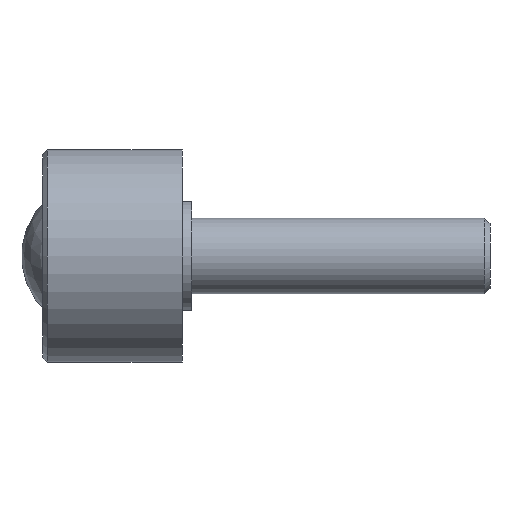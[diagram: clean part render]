
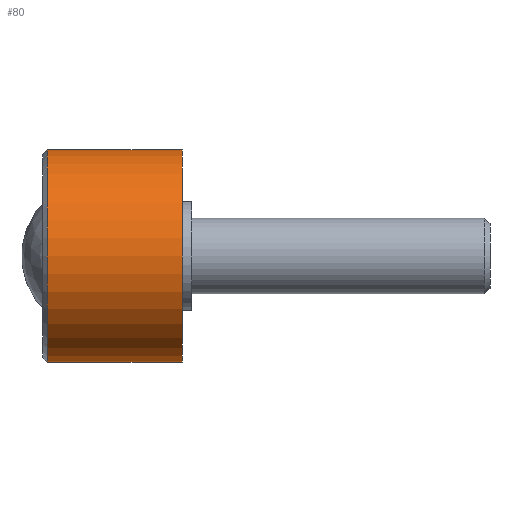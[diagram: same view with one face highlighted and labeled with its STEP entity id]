
A CAD part, left-side view. The second image highlights one B-rep face of the part: STEP entity #80.
In plain terms, the highlighted cylindrical face has radius 22.5 mm (diameter 45 mm), a full revolution.
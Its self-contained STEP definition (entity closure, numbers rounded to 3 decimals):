
#80 = ADVANCED_FACE( '', ( #105, #106, #107 ), #108, .T. );
#105 = FACE_OUTER_BOUND( '', #146, .T. );
#106 = FACE_BOUND( '', #147, .T. );
#107 = FACE_OUTER_BOUND( '', #148, .T. );
#108 = CYLINDRICAL_SURFACE( '', #149, 22.5 );
#146 = EDGE_LOOP( '', ( #197 ) );
#147 = EDGE_LOOP( '', ( #198 ) );
#148 = EDGE_LOOP( '', ( #199 ) );
#149 = AXIS2_PLACEMENT_3D( '', #200, #201, #202 );
#197 = ORIENTED_EDGE( '', *, *, #246, .F. );
#198 = ORIENTED_EDGE( '', *, *, #247, .F. );
#199 = ORIENTED_EDGE( '', *, *, #248, .T. );
#200 = CARTESIAN_POINT( '', ( 0., 0., 0. ) );
#201 = DIRECTION( '', ( 0., 1., 0. ) );
#202 = DIRECTION( '', ( 0., 0., -1. ) );
#246 = EDGE_CURVE( '', #265, #265, #266, .T. );
#247 = EDGE_CURVE( '', #267, #267, #268, .T. );
#248 = EDGE_CURVE( '', #269, #269, #270, .T. );
#265 = VERTEX_POINT( '', #291 );
#266 = CIRCLE( '', #292, 22.5 );
#267 = VERTEX_POINT( '', #293 );
#268 = B_SPLINE_CURVE_WITH_KNOTS( '', 3, ( #294, #295, #296, #297, #298, #299, #300, #301, #302, #303, #304, #305, #306, #307, #308, #309, #310, #311, #312, #313, #314, #315, #316, #317, #318, #319, #320, #321, #322, #323, #324, #325, #326, #327, #328, #329, #330, #331, #332, #333, #334, #335, #336, #337, #338, #339, #340, #341, #342, #343, #344, #345, #346, #347, #348, #349, #350, #351, #352, #353, #354, #355, #356, #357, #358, #359, #360, #361, #362, #363, #364, #365, #366, #367, #368, #369, #370, #371, #372, #373, #374, #375, #376, #377 ), .UNSPECIFIED., .T., .F., ( 2, 2, 2, 2, 2, 2, 2, 2, 2, 2, 2, 2, 2, 2, 2, 2, 2, 2, 2, 2, 2, 2, 2, 2, 2, 2, 2, 2, 2, 2, 2, 2, 2, 2, 2, 2, 2, 2, 2, 2, 2, 2, 2, 2 ), ( -0.001, 0., 0.001, 0.002, 0.002, 0.004, 0.004, 0.005, 0.006, 0.007, 0.008, 0.008, 0.009, 0.011, 0.012, 0.012, 0.013, 0.014, 0.014, 0.015, 0.016, 0.018, 0.018, 0.019, 0.02, 0.021, 0.022, 0.024, 0.024, 0.025, 0.026, 0.027, 0.028, 0.028, 0.029, 0.031, 0.032, 0.033, 0.034, 0.034, 0.035, 0.037, 0.038, 0.039 ), .UNSPECIFIED. );
#269 = VERTEX_POINT( '', #378 );
#270 = CIRCLE( '', #379, 22.5 );
#291 = CARTESIAN_POINT( '', ( 0., 2., -22.5 ) );
#292 = AXIS2_PLACEMENT_3D( '', #405, #406, #407 );
#293 = CARTESIAN_POINT( '', ( 21.685, 20., 6. ) );
#294 = CARTESIAN_POINT( '', ( 21.685, 20.398, 6. ) );
#295 = CARTESIAN_POINT( '', ( 21.685, 19.602, 6. ) );
#296 = CARTESIAN_POINT( '', ( 21.696, 19.21, 5.961 ) );
#297 = CARTESIAN_POINT( '', ( 21.727, 18.633, 5.846 ) );
#298 = CARTESIAN_POINT( '', ( 21.74, 18.443, 5.798 ) );
#299 = CARTESIAN_POINT( '', ( 21.771, 18.065, 5.683 ) );
#300 = CARTESIAN_POINT( '', ( 21.788, 17.878, 5.616 ) );
#301 = CARTESIAN_POINT( '', ( 21.846, 17.334, 5.389 ) );
#302 = CARTESIAN_POINT( '', ( 21.891, 16.99, 5.205 ) );
#303 = CARTESIAN_POINT( '', ( 21.965, 16.502, 4.878 ) );
#304 = CARTESIAN_POINT( '', ( 21.991, 16.343, 4.761 ) );
#305 = CARTESIAN_POINT( '', ( 22.044, 16.039, 4.511 ) );
#306 = CARTESIAN_POINT( '', ( 22.07, 15.895, 4.38 ) );
#307 = CARTESIAN_POINT( '', ( 22.149, 15.482, 3.967 ) );
#308 = CARTESIAN_POINT( '', ( 22.202, 15.234, 3.666 ) );
#309 = CARTESIAN_POINT( '', ( 22.3, 14.795, 3.011 ) );
#310 = CARTESIAN_POINT( '', ( 22.345, 14.61, 2.664 ) );
#311 = CARTESIAN_POINT( '', ( 22.4, 14.385, 2.123 ) );
#312 = CARTESIAN_POINT( '', ( 22.417, 14.319, 1.939 ) );
#313 = CARTESIAN_POINT( '', ( 22.446, 14.204, 1.563 ) );
#314 = CARTESIAN_POINT( '', ( 22.459, 14.155, 1.369 ) );
#315 = CARTESIAN_POINT( '', ( 22.49, 14.039, 0.788 ) );
#316 = CARTESIAN_POINT( '', ( 22.5, 14., 0.397 ) );
#317 = CARTESIAN_POINT( '', ( 22.5, 14., -0.39 ) );
#318 = CARTESIAN_POINT( '', ( 22.489, 14.039, -0.789 ) );
#319 = CARTESIAN_POINT( '', ( 22.449, 14.193, -1.56 ) );
#320 = CARTESIAN_POINT( '', ( 22.42, 14.307, -1.935 ) );
#321 = CARTESIAN_POINT( '', ( 22.363, 14.534, -2.482 ) );
#322 = CARTESIAN_POINT( '', ( 22.343, 14.619, -2.661 ) );
#323 = CARTESIAN_POINT( '', ( 22.299, 14.804, -3.007 ) );
#324 = CARTESIAN_POINT( '', ( 22.276, 14.905, -3.174 ) );
#325 = CARTESIAN_POINT( '', ( 22.227, 15.121, -3.498 ) );
#326 = CARTESIAN_POINT( '', ( 22.202, 15.238, -3.655 ) );
#327 = CARTESIAN_POINT( '', ( 22.15, 15.486, -3.957 ) );
#328 = CARTESIAN_POINT( '', ( 22.123, 15.619, -4.104 ) );
#329 = CARTESIAN_POINT( '', ( 22.043, 16.035, -4.52 ) );
#330 = CARTESIAN_POINT( '', ( 21.99, 16.336, -4.767 ) );
#331 = CARTESIAN_POINT( '', ( 21.892, 16.984, -5.202 ) );
#332 = CARTESIAN_POINT( '', ( 21.845, 17.336, -5.39 ) );
#333 = CARTESIAN_POINT( '', ( 21.769, 18.059, -5.691 ) );
#334 = CARTESIAN_POINT( '', ( 21.738, 18.433, -5.805 ) );
#335 = CARTESIAN_POINT( '', ( 21.707, 19.013, -5.922 ) );
#336 = CARTESIAN_POINT( '', ( 21.699, 19.211, -5.951 ) );
#337 = CARTESIAN_POINT( '', ( 21.688, 19.605, -5.99 ) );
#338 = CARTESIAN_POINT( '', ( 21.685, 19.801, -6. ) );
#339 = CARTESIAN_POINT( '', ( 21.685, 20.39, -6. ) );
#340 = CARTESIAN_POINT( '', ( 21.696, 20.782, -5.962 ) );
#341 = CARTESIAN_POINT( '', ( 21.738, 21.562, -5.807 ) );
#342 = CARTESIAN_POINT( '', ( 21.769, 21.937, -5.692 ) );
#343 = CARTESIAN_POINT( '', ( 21.845, 22.66, -5.392 ) );
#344 = CARTESIAN_POINT( '', ( 21.891, 23.011, -5.204 ) );
#345 = CARTESIAN_POINT( '', ( 21.99, 23.662, -4.769 ) );
#346 = CARTESIAN_POINT( '', ( 22.043, 23.963, -4.522 ) );
#347 = CARTESIAN_POINT( '', ( 22.122, 24.378, -4.108 ) );
#348 = CARTESIAN_POINT( '', ( 22.149, 24.511, -3.961 ) );
#349 = CARTESIAN_POINT( '', ( 22.201, 24.76, -3.658 ) );
#350 = CARTESIAN_POINT( '', ( 22.227, 24.877, -3.501 ) );
#351 = CARTESIAN_POINT( '', ( 22.299, 25.202, -3.015 ) );
#352 = CARTESIAN_POINT( '', ( 22.344, 25.387, -2.671 ) );
#353 = CARTESIAN_POINT( '', ( 22.419, 25.691, -1.941 ) );
#354 = CARTESIAN_POINT( '', ( 22.449, 25.806, -1.564 ) );
#355 = CARTESIAN_POINT( '', ( 22.479, 25.921, -0.987 ) );
#356 = CARTESIAN_POINT( '', ( 22.487, 25.951, -0.793 ) );
#357 = CARTESIAN_POINT( '', ( 22.497, 25.99, -0.4 ) );
#358 = CARTESIAN_POINT( '', ( 22.5, 26., -0.201 ) );
#359 = CARTESIAN_POINT( '', ( 22.5, 26., 0.393 ) );
#360 = CARTESIAN_POINT( '', ( 22.49, 25.962, 0.784 ) );
#361 = CARTESIAN_POINT( '', ( 22.45, 25.808, 1.555 ) );
#362 = CARTESIAN_POINT( '', ( 22.419, 25.692, 1.938 ) );
#363 = CARTESIAN_POINT( '', ( 22.345, 25.391, 2.662 ) );
#364 = CARTESIAN_POINT( '', ( 22.301, 25.207, 3.007 ) );
#365 = CARTESIAN_POINT( '', ( 22.203, 24.77, 3.662 ) );
#366 = CARTESIAN_POINT( '', ( 22.15, 24.52, 3.965 ) );
#367 = CARTESIAN_POINT( '', ( 22.07, 24.107, 4.378 ) );
#368 = CARTESIAN_POINT( '', ( 22.044, 23.963, 4.509 ) );
#369 = CARTESIAN_POINT( '', ( 21.992, 23.661, 4.758 ) );
#370 = CARTESIAN_POINT( '', ( 21.966, 23.502, 4.876 ) );
#371 = CARTESIAN_POINT( '', ( 21.891, 23.012, 5.204 ) );
#372 = CARTESIAN_POINT( '', ( 21.846, 22.669, 5.388 ) );
#373 = CARTESIAN_POINT( '', ( 21.769, 21.946, 5.689 ) );
#374 = CARTESIAN_POINT( '', ( 21.738, 21.563, 5.806 ) );
#375 = CARTESIAN_POINT( '', ( 21.696, 20.791, 5.961 ) );
#376 = CARTESIAN_POINT( '', ( 21.685, 20.398, 6. ) );
#377 = CARTESIAN_POINT( '', ( 21.685, 19.602, 6. ) );
#378 = CARTESIAN_POINT( '', ( 0., 30.5, -22.5 ) );
#379 = AXIS2_PLACEMENT_3D( '', #408, #409, #410 );
#405 = CARTESIAN_POINT( '', ( 0., 2., 0. ) );
#406 = DIRECTION( '', ( 0., -1., 0. ) );
#407 = DIRECTION( '', ( 0., 0., -1. ) );
#408 = CARTESIAN_POINT( '', ( 0., 30.5, 0. ) );
#409 = DIRECTION( '', ( 0., -1., 0. ) );
#410 = DIRECTION( '', ( 0., 0., -1. ) );
